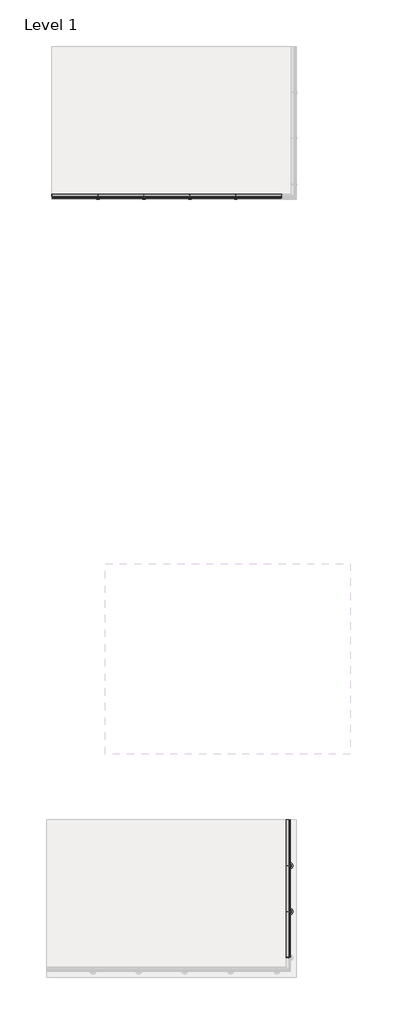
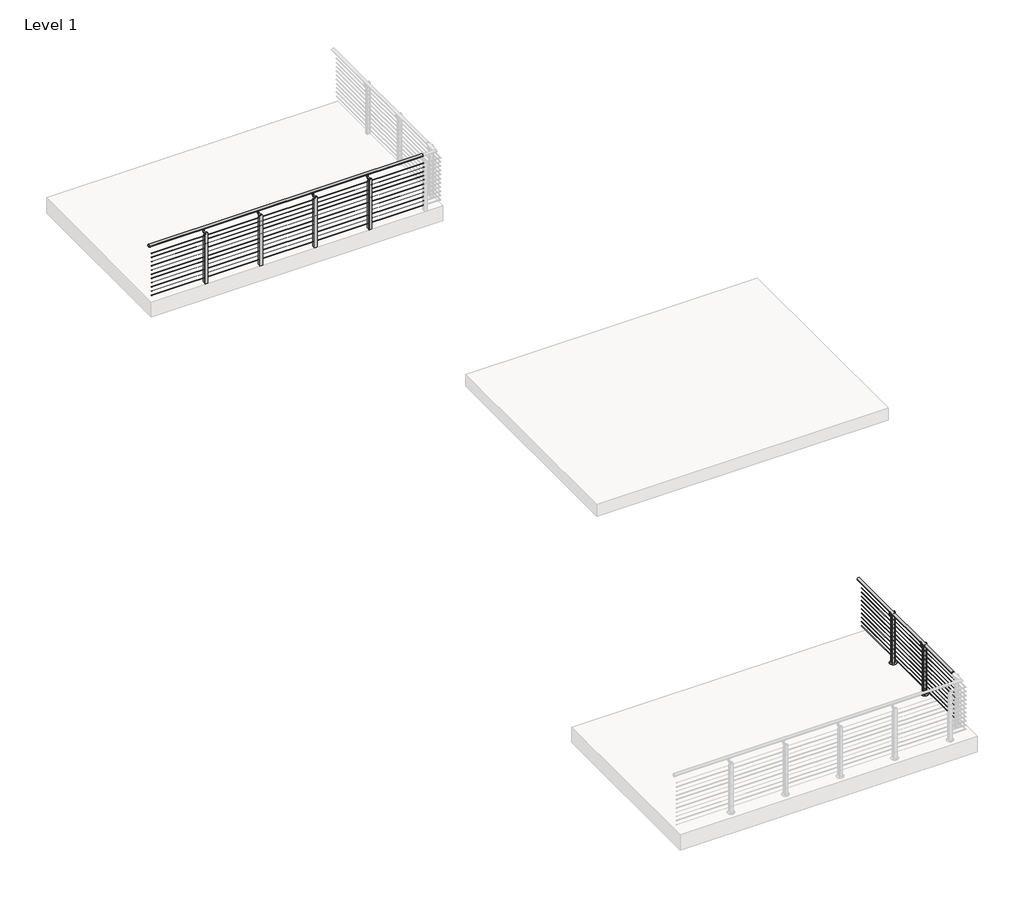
# One storey, part 7 of 9: 2 railings.
"""IFC4 building model written with IfcOpenShell, lengths in millimetres."""

from ifc_helpers import new_model, si_unit, point, frame, frame_2d, origin, origin_with_axes, place, context, project, spatial, polyline, circle_curve, trimmed, segment, composite_curve, outline, extrude, element, save
from ifc_brep_helpers import plane_surface, cylinder_surface, advanced_brep

model = new_model("IFC4")

# Units and contexts
model_context = context("Model", 3, world=origin())
ifc_project = project(units=[si_unit("LENGTHUNIT", "METRE", prefix="MILLI")], contexts=[model_context])

# Site, building, storey
site = spatial("IfcSite", under=ifc_project)
building = spatial("IfcBuilding", under=site)
storey = spatial("IfcBuildingStorey", under=building, Name="Level 1", Elevation=0.0)

# Railings
placement = place(None, origin())
element("IfcRailing", 1, ObjectType="VIVA-TEE-Cable-Core Mount-Straight", at=placement, inside=storey, context=model_context, shape_type="SolidModel", body=[
    advanced_brep(
    [(-4967.4394753, -22919.8334719, 1054.1), (-5018.2394753, -22919.8334719, 1054.1), (-4967.4394753, -22909.4018473, 1054.1), (-5018.2394753, -22909.4018473, 1054.1), (-4967.4394753, -19861.4018473, 1054.1), (-5018.2394753, -19861.4018473, 1054.1)],
    [
        (0, 1, circle_curve(frame((-4992.8394753, -22919.8334719, 1054.1), z_axis=(0.0, -1.0, 0.0), x_axis=(-1.0, 0.0, 0.0)), 25.4)),
        (1, 0, circle_curve(frame((-4992.8394753, -22919.8334719, 1054.1), z_axis=(0.0, -1.0, 0.0), x_axis=(-1.0, 0.0, 0.0)), 25.4)),
        (0, 2),
        (2, 3, circle_curve(frame((-4992.8394753, -22909.4018473, 1054.1), z_axis=(0.0, -1.0, 0.0), x_axis=(-1.0, 0.0, 0.0)), 25.4)),
        (3, 1),
        (3, 2, circle_curve(frame((-4992.8394753, -22909.4018473, 1054.1), z_axis=(0.0, -1.0, 0.0), x_axis=(-1.0, 0.0, 0.0)), 25.4)),
        (4, 5, circle_curve(frame((-4992.8394753, -19861.4018473, 1054.1), z_axis=(0.0, 1.0, 0.0), x_axis=(-1.0, 0.0, 0.0)), 25.4)),
        (5, 4, circle_curve(frame((-4992.8394753, -19861.4018473, 1054.1), z_axis=(0.0, 1.0, 0.0), x_axis=(-1.0, 0.0, 0.0)), 25.4)),
        (2, 4),
        (5, 3),
    ],
    [
        plane_surface(frame((-4992.8394753, -22919.8334719, 1079.5), z_axis=(0.0, -1.0, 0.0), x_axis=(0.0, 0.0, 1.0))),
        cylinder_surface(frame((-4992.8394753, -22919.8334719, 1054.1), z_axis=(0.0, -1.0, 0.0), x_axis=(-1.0, 0.0, 0.0)), 25.4),
        plane_surface(frame((-4992.8394753, -19861.4018473, 1079.5), z_axis=(0.0, 1.0, 0.0), x_axis=(0.0, 0.0, 1.0))),
        cylinder_surface(frame((-4992.8394753, -22909.4018473, 1054.1), z_axis=(0.0, -1.0, 0.0), x_axis=(-1.0, 0.0, 0.0)), 25.4),
    ],
    [
        (0, [[1, 2]]),
        (1, [[-1, 3, 4, 5]]),
        (1, [[-2, -5, 6, -3]]),
        (2, [[7, 8]]),
        (3, [[-4, 9, -8, 10]]),
        (3, [[-6, -10, -7, -9]]),
    ],
),
    extrude(outline(composite_curve([segment(trimmed(circle_curve(frame_2d((937.4124, -4932.5144753)), 2.3876), [point((937.4124, -4934.9020753))], [point((937.4124, -4930.1268753))], False, "CARTESIAN"), True, "CONTINUOUS"), segment(trimmed(circle_curve(frame_2d((937.4124, -4932.5144753)), 2.3876), [point((937.4124, -4930.1268753))], [point((937.4124, -4934.9020753))], False, "CARTESIAN"), True, "CONTINUOUS")], self_intersect=False)), frame((0.0, -22909.4018473, 0.0), z_axis=(0.0, 1.0, 0.0), x_axis=(0.0, 0.0, 1.0)), (0.0, 0.0, 1.0), 3048.0),
    extrude(outline(composite_curve([segment(trimmed(circle_curve(frame_2d((854.8624, -4932.5144753)), 2.3876), [point((854.8624, -4934.9020753))], [point((854.8624, -4930.1268753))], False, "CARTESIAN"), True, "CONTINUOUS"), segment(trimmed(circle_curve(frame_2d((854.8624, -4932.5144753)), 2.3876), [point((854.8624, -4930.1268753))], [point((854.8624, -4934.9020753))], False, "CARTESIAN"), True, "CONTINUOUS")], self_intersect=False)), frame((0.0, -22909.4018473, 0.0), z_axis=(0.0, 1.0, 0.0), x_axis=(0.0, 0.0, 1.0)), (0.0, 0.0, 1.0), 3048.0),
    extrude(outline(composite_curve([segment(trimmed(circle_curve(frame_2d((772.3124, -4932.5144753)), 2.3876), [point((772.3124, -4934.9020753))], [point((772.3124, -4930.1268753))], False, "CARTESIAN"), True, "CONTINUOUS"), segment(trimmed(circle_curve(frame_2d((772.3124, -4932.5144753)), 2.3876), [point((772.3124, -4930.1268753))], [point((772.3124, -4934.9020753))], False, "CARTESIAN"), True, "CONTINUOUS")], self_intersect=False)), frame((0.0, -22909.4018473, 0.0), z_axis=(0.0, 1.0, 0.0), x_axis=(0.0, 0.0, 1.0)), (0.0, 0.0, 1.0), 3048.0),
    extrude(outline(composite_curve([segment(trimmed(circle_curve(frame_2d((689.7624, -4932.5144753)), 2.3876), [point((689.7624, -4934.9020753))], [point((689.7624, -4930.1268753))], False, "CARTESIAN"), True, "CONTINUOUS"), segment(trimmed(circle_curve(frame_2d((689.7624, -4932.5144753)), 2.3876), [point((689.7624, -4930.1268753))], [point((689.7624, -4934.9020753))], False, "CARTESIAN"), True, "CONTINUOUS")], self_intersect=False)), frame((0.0, -22909.4018473, 0.0), z_axis=(0.0, 1.0, 0.0), x_axis=(0.0, 0.0, 1.0)), (0.0, 0.0, 1.0), 3048.0),
    extrude(outline(composite_curve([segment(trimmed(circle_curve(frame_2d((607.2124, -4932.5144753)), 2.3876), [point((607.2124, -4934.9020753))], [point((607.2124, -4930.1268753))], False, "CARTESIAN"), True, "CONTINUOUS"), segment(trimmed(circle_curve(frame_2d((607.2124, -4932.5144753)), 2.3876), [point((607.2124, -4930.1268753))], [point((607.2124, -4934.9020753))], False, "CARTESIAN"), True, "CONTINUOUS")], self_intersect=False)), frame((0.0, -22909.4018473, 0.0), z_axis=(0.0, 1.0, 0.0), x_axis=(0.0, 0.0, 1.0)), (0.0, 0.0, 1.0), 3048.0),
    extrude(outline(composite_curve([segment(trimmed(circle_curve(frame_2d((524.6624, -4932.5144753)), 2.3876), [point((524.6624, -4934.9020753))], [point((524.6624, -4930.1268753))], False, "CARTESIAN"), True, "CONTINUOUS"), segment(trimmed(circle_curve(frame_2d((524.6624, -4932.5144753)), 2.3876), [point((524.6624, -4930.1268753))], [point((524.6624, -4934.9020753))], False, "CARTESIAN"), True, "CONTINUOUS")], self_intersect=False)), frame((0.0, -22909.4018473, 0.0), z_axis=(0.0, 1.0, 0.0), x_axis=(0.0, 0.0, 1.0)), (0.0, 0.0, 1.0), 3048.0),
    extrude(outline(composite_curve([segment(trimmed(circle_curve(frame_2d((442.1124, -4932.5144753)), 2.3876), [point((442.1124, -4934.9020753))], [point((442.1124, -4930.1268753))], False, "CARTESIAN"), True, "CONTINUOUS"), segment(trimmed(circle_curve(frame_2d((442.1124, -4932.5144753)), 2.3876), [point((442.1124, -4930.1268753))], [point((442.1124, -4934.9020753))], False, "CARTESIAN"), True, "CONTINUOUS")], self_intersect=False)), frame((0.0, -22909.4018473, 0.0), z_axis=(0.0, 1.0, 0.0), x_axis=(0.0, 0.0, 1.0)), (0.0, 0.0, 1.0), 3048.0),
    extrude(outline(composite_curve([segment(trimmed(circle_curve(frame_2d((359.5624, -4932.5144753)), 2.3876), [point((359.5624, -4934.9020753))], [point((359.5624, -4930.1268753))], False, "CARTESIAN"), True, "CONTINUOUS"), segment(trimmed(circle_curve(frame_2d((359.5624, -4932.5144753)), 2.3876), [point((359.5624, -4930.1268753))], [point((359.5624, -4934.9020753))], False, "CARTESIAN"), True, "CONTINUOUS")], self_intersect=False)), frame((0.0, -22909.4018473, 0.0), z_axis=(0.0, 1.0, 0.0), x_axis=(0.0, 0.0, 1.0)), (0.0, 0.0, 1.0), 3048.0),
    extrude(outline(composite_curve([segment(trimmed(circle_curve(frame_2d((277.0124, -4932.5144753)), 2.3876), [point((277.0124, -4934.9020753))], [point((277.0124, -4930.1268753))], False, "CARTESIAN"), True, "CONTINUOUS"), segment(trimmed(circle_curve(frame_2d((277.0124, -4932.5144753)), 2.3876), [point((277.0124, -4930.1268753))], [point((277.0124, -4934.9020753))], False, "CARTESIAN"), True, "CONTINUOUS")], self_intersect=False)), frame((0.0, -22909.4018473, 0.0), z_axis=(0.0, 1.0, 0.0), x_axis=(0.0, 0.0, 1.0)), (0.0, 0.0, 1.0), 3048.0),
    extrude(outline(composite_curve([segment(trimmed(circle_curve(frame_2d((194.4624, -4932.5144753)), 2.3876), [point((194.4624, -4934.9020753))], [point((194.4624, -4930.1268753))], False, "CARTESIAN"), True, "CONTINUOUS"), segment(trimmed(circle_curve(frame_2d((194.4624, -4932.5144753)), 2.3876), [point((194.4624, -4930.1268753))], [point((194.4624, -4934.9020753))], False, "CARTESIAN"), True, "CONTINUOUS")], self_intersect=False)), frame((0.0, -22909.4018473, 0.0), z_axis=(0.0, 1.0, 0.0), x_axis=(0.0, 0.0, 1.0)), (0.0, 0.0, 1.0), 3048.0),
    extrude(outline(composite_curve([segment(trimmed(circle_curve(frame_2d((111.9124, -4932.5144753)), 2.3876), [point((111.9124, -4934.9020753))], [point((111.9124, -4930.1268753))], False, "CARTESIAN"), True, "CONTINUOUS"), segment(trimmed(circle_curve(frame_2d((111.9124, -4932.5144753)), 2.3876), [point((111.9124, -4930.1268753))], [point((111.9124, -4934.9020753))], False, "CARTESIAN"), True, "CONTINUOUS")], self_intersect=False)), frame((0.0, -22909.4018473, 0.0), z_axis=(0.0, 1.0, 0.0), x_axis=(0.0, 0.0, 1.0)), (0.0, 0.0, 1.0), 3048.0),
    extrude(outline(composite_curve([segment(trimmed(circle_curve(frame_2d((0.0, 7.0)), 7.0), [point((0.0, 14.0))], [point((0.0, 0.0))], False, "CARTESIAN"), True, "CONTINUOUS"), segment(trimmed(circle_curve(frame_2d((0.0, 7.0)), 7.0), [point((0.0, 0.0))], [point((0.0, 14.0))], False, "CARTESIAN"), True, "CONTINUOUS")], self_intersect=False)), frame((-4986.1296215, -20877.3281374, 949.1832524), z_axis=(0.0, 0.004253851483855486, 0.9999909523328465), x_axis=(0.0, 0.9999909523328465, -0.004253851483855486)), (0.0, 0.0, 1.0), 75.97),
    extrude(outline(composite_curve([segment(trimmed(circle_curve(frame_2d((1047.2025651, -4993.2710255)), 19.05), [point((1033.7916463, -4979.7414373))], [point((1033.7916463, -5006.8006138))], True, "CARTESIAN"), True, "CONTINUOUS"), segment(polyline([(1033.7916463, -5006.8006138), (1032.7742593, -5007.8270034)]), True, "CONTINUOUS"), segment(trimmed(circle_curve(frame_2d((1031.7089374, -5006.7710255)), 1.5), [point((1032.7742593, -5007.8270034))], [point((1030.5780156, -5007.756427))], False, "CARTESIAN"), True, "CONTINUOUS"), segment(trimmed(circle_curve(frame_2d((1047.2025651, -4993.2710255)), 22.05), [point((1030.5780156, -5007.756427))], [point((1030.5780156, -4978.7856241))], False, "CARTESIAN"), True, "CONTINUOUS"), segment(trimmed(circle_curve(frame_2d((1031.7089374, -4979.7710255)), 1.5), [point((1030.5780156, -4978.7856241))], [point((1032.7742593, -4978.7150477))], False, "CARTESIAN"), True, "CONTINUOUS"), segment(polyline([(1032.7742593, -4978.7150477), (1033.7916463, -4979.7414373)]), True, "CONTINUOUS")], self_intersect=False)), frame((0.0, -20912.8666115, 0.0), z_axis=(0.0, 1.0, 0.0), x_axis=(0.0, 0.0, 1.0)), (0.0, 0.0, 1.0), 74.5229187),
    extrude(outline(composite_curve([segment(trimmed(circle_curve(frame_2d((-20877.1238069, 976.1259188)), 12.5), [point((-20889.6238069, 976.1259188))], [point((-20864.6238069, 976.1259188))], False, "CARTESIAN"), True, "CONTINUOUS"), segment(trimmed(circle_curve(frame_2d((-20877.1238069, 976.1259188)), 12.5), [point((-20864.6238069, 976.1259188))], [point((-20889.6238069, 976.1259188))], False, "CARTESIAN"), True, "CONTINUOUS")], self_intersect=False)), frame((-5005.7866356, 0.0, 0.0), z_axis=(1.0, 0.0, 0.0), x_axis=(0.0, 1.0, 0.0)), (0.0, 0.0, 1.0), 92.423),
    extrude(outline(composite_curve([segment(trimmed(circle_curve(frame_2d((-4932.5144753, -20877.0049723)), 63.5), [point((-4869.0144753, -20877.0049723))], [point((-4996.0144753, -20877.0049723))], False, "CARTESIAN"), True, "CONTINUOUS"), segment(trimmed(circle_curve(frame_2d((-4932.5144753, -20877.0049723)), 63.5), [point((-4996.0144753, -20877.0049723))], [point((-4869.0144753, -20877.0049723))], False, "CARTESIAN"), True, "CONTINUOUS")], self_intersect=False)), origin_with_axes(), (0.0, 0.0, 1.0), 6.35),
    extrude(outline(composite_curve([segment(trimmed(circle_curve(frame_2d((924.2425, -4939.5299268)), 24.765), [point((949.0075, -4939.5299268))], [point((924.2425, -4964.2949268))], False, "CARTESIAN"), True, "CONTINUOUS"), segment(polyline([(924.2425, -4964.2949268), (-196.85, -4964.2949268), (-196.85, -4913.4644753), (949.0075, -4913.4644753), (949.0075, -4939.5299268)]), True, "CONTINUOUS")], self_intersect=False)), frame((0.0, -20863.0014727, 0.0), z_axis=(0.0, 1.0, 0.0), x_axis=(0.0, 0.0, 1.0)), (0.0, 0.0, 1.0), 9.525),
    extrude(outline(composite_curve([segment(polyline([(-20851.6049723, -196.85), (-20902.4049723, -196.85), (-20902.4049723, 979.17)]), True, "CONTINUOUS"), segment(trimmed(circle_curve(frame_2d((-20877.0049723, 979.17)), 25.4), [point((-20902.4049723, 979.17))], [point((-20851.6049723, 979.17))], False, "CARTESIAN"), True, "CONTINUOUS"), segment(polyline([(-20851.6049723, 979.17), (-20851.6049723, -196.85)]), True, "CONTINUOUS")], self_intersect=False)), frame((-4913.4644753, 0.0, 0.0), z_axis=(1.0, 0.0, 0.0), x_axis=(0.0, 1.0, 0.0)), (0.0, 0.0, 1.0), 9.525),
    extrude(outline(composite_curve([segment(trimmed(circle_curve(frame_2d((924.2425, -4939.5299268)), 24.765), [point((949.0075, -4939.5299268))], [point((924.2425, -4964.2949268))], False, "CARTESIAN"), True, "CONTINUOUS"), segment(polyline([(924.2425, -4964.2949268), (-196.85, -4964.2949268), (-196.85, -4913.4644753), (949.0075, -4913.4644753), (949.0075, -4939.5299268)]), True, "CONTINUOUS")], self_intersect=False)), frame((0.0, -20900.5334719, 0.0), z_axis=(0.0, 1.0, 0.0), x_axis=(0.0, 0.0, 1.0)), (0.0, 0.0, 1.0), 9.525),
    extrude(outline(composite_curve([segment(trimmed(circle_curve(frame_2d((0.0, 7.0)), 7.0), [point((0.0, 14.0))], [point((0.0, 0.0))], False, "CARTESIAN"), True, "CONTINUOUS"), segment(trimmed(circle_curve(frame_2d((0.0, 7.0)), 7.0), [point((0.0, 0.0))], [point((0.0, 14.0))], False, "CARTESIAN"), True, "CONTINUOUS")], self_intersect=False)), frame((-4986.1296215, -21893.3281374, 949.1832524), z_axis=(0.0, 0.004253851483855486, 0.9999909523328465), x_axis=(0.0, 0.9999909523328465, -0.004253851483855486)), (0.0, 0.0, 1.0), 75.97),
    extrude(outline(composite_curve([segment(trimmed(circle_curve(frame_2d((1047.2025651, -4993.2710255)), 19.05), [point((1033.7916463, -4979.7414373))], [point((1033.7916463, -5006.8006138))], True, "CARTESIAN"), True, "CONTINUOUS"), segment(polyline([(1033.7916463, -5006.8006138), (1032.7742593, -5007.8270034)]), True, "CONTINUOUS"), segment(trimmed(circle_curve(frame_2d((1031.7089374, -5006.7710255)), 1.5), [point((1032.7742593, -5007.8270034))], [point((1030.5780156, -5007.756427))], False, "CARTESIAN"), True, "CONTINUOUS"), segment(trimmed(circle_curve(frame_2d((1047.2025651, -4993.2710255)), 22.05), [point((1030.5780156, -5007.756427))], [point((1030.5780156, -4978.7856241))], False, "CARTESIAN"), True, "CONTINUOUS"), segment(trimmed(circle_curve(frame_2d((1031.7089374, -4979.7710255)), 1.5), [point((1030.5780156, -4978.7856241))], [point((1032.7742593, -4978.7150477))], False, "CARTESIAN"), True, "CONTINUOUS"), segment(polyline([(1032.7742593, -4978.7150477), (1033.7916463, -4979.7414373)]), True, "CONTINUOUS")], self_intersect=False)), frame((0.0, -21928.8666115, 0.0), z_axis=(0.0, 1.0, 0.0), x_axis=(0.0, 0.0, 1.0)), (0.0, 0.0, 1.0), 74.5229187),
    extrude(outline(composite_curve([segment(trimmed(circle_curve(frame_2d((-21893.1238069, 976.1259188)), 12.5), [point((-21905.6238069, 976.1259188))], [point((-21880.6238069, 976.1259188))], False, "CARTESIAN"), True, "CONTINUOUS"), segment(trimmed(circle_curve(frame_2d((-21893.1238069, 976.1259188)), 12.5), [point((-21880.6238069, 976.1259188))], [point((-21905.6238069, 976.1259188))], False, "CARTESIAN"), True, "CONTINUOUS")], self_intersect=False)), frame((-5005.7866356, 0.0, 0.0), z_axis=(1.0, 0.0, 0.0), x_axis=(0.0, 1.0, 0.0)), (0.0, 0.0, 1.0), 92.423),
    extrude(outline(composite_curve([segment(trimmed(circle_curve(frame_2d((-4932.5144753, -21893.0049723)), 63.5), [point((-4869.0144753, -21893.0049723))], [point((-4996.0144753, -21893.0049723))], False, "CARTESIAN"), True, "CONTINUOUS"), segment(trimmed(circle_curve(frame_2d((-4932.5144753, -21893.0049723)), 63.5), [point((-4996.0144753, -21893.0049723))], [point((-4869.0144753, -21893.0049723))], False, "CARTESIAN"), True, "CONTINUOUS")], self_intersect=False)), origin_with_axes(), (0.0, 0.0, 1.0), 6.35),
    extrude(outline(composite_curve([segment(trimmed(circle_curve(frame_2d((924.2425, -4939.5299268)), 24.765), [point((949.0075, -4939.5299268))], [point((924.2425, -4964.2949268))], False, "CARTESIAN"), True, "CONTINUOUS"), segment(polyline([(924.2425, -4964.2949268), (-196.85, -4964.2949268), (-196.85, -4913.4644753), (949.0075, -4913.4644753), (949.0075, -4939.5299268)]), True, "CONTINUOUS")], self_intersect=False)), frame((0.0, -21879.0014727, 0.0), z_axis=(0.0, 1.0, 0.0), x_axis=(0.0, 0.0, 1.0)), (0.0, 0.0, 1.0), 9.525),
    extrude(outline(composite_curve([segment(polyline([(-21867.6049723, -196.85), (-21918.4049723, -196.85), (-21918.4049723, 979.17)]), True, "CONTINUOUS"), segment(trimmed(circle_curve(frame_2d((-21893.0049723, 979.17)), 25.4), [point((-21918.4049723, 979.17))], [point((-21867.6049723, 979.17))], False, "CARTESIAN"), True, "CONTINUOUS"), segment(polyline([(-21867.6049723, 979.17), (-21867.6049723, -196.85)]), True, "CONTINUOUS")], self_intersect=False)), frame((-4913.4644753, 0.0, 0.0), z_axis=(1.0, 0.0, 0.0), x_axis=(0.0, 1.0, 0.0)), (0.0, 0.0, 1.0), 9.525),
    extrude(outline(composite_curve([segment(trimmed(circle_curve(frame_2d((924.2425, -4939.5299268)), 24.765), [point((949.0075, -4939.5299268))], [point((924.2425, -4964.2949268))], False, "CARTESIAN"), True, "CONTINUOUS"), segment(polyline([(924.2425, -4964.2949268), (-196.85, -4964.2949268), (-196.85, -4913.4644753), (949.0075, -4913.4644753), (949.0075, -4939.5299268)]), True, "CONTINUOUS")], self_intersect=False)), frame((0.0, -21916.5334719, 0.0), z_axis=(0.0, 1.0, 0.0), x_axis=(0.0, 0.0, 1.0)), (0.0, 0.0, 1.0), 9.525),
])
element("IfcRailing", 2, ObjectType="VIVA-TEE-Cable-Weld Mount-Straight", at=placement, inside=storey, context=model_context, shape_type="SolidModel", body=[
    advanced_brep(
    [(-5120.7460999, -6058.6693064, 1054.1), (-5120.7460999, -6007.8693064, 1054.1), (-10200.7460999, -6007.8693064, 1054.1), (-10200.7460999, -6058.6693064, 1054.1), (-10211.1777245, -6058.6693064, 1054.1), (-10211.1777245, -6007.8693064, 1054.1)],
    [
        (0, 1, circle_curve(frame((-5120.7460999, -6033.2693064, 1054.1), z_axis=(1.0, 0.0, 0.0), x_axis=(0.0, 1.0, 0.0)), 25.4)),
        (1, 0, circle_curve(frame((-5120.7460999, -6033.2693064, 1054.1), z_axis=(1.0, 0.0, 0.0), x_axis=(0.0, 1.0, 0.0)), 25.4)),
        (2, 3, circle_curve(frame((-10200.7460999, -6033.2693064, 1054.1), z_axis=(1.0, 0.0, 0.0), x_axis=(0.0, 1.0, 0.0)), 25.4)),
        (3, 0),
        (1, 2),
        (3, 2, circle_curve(frame((-10200.7460999, -6033.2693064, 1054.1), z_axis=(1.0, 0.0, 0.0), x_axis=(0.0, 1.0, 0.0)), 25.4)),
        (4, 5, circle_curve(frame((-10211.1777245, -6033.2693064, 1054.1), z_axis=(-1.0, 0.0, 0.0), x_axis=(0.0, 1.0, 0.0)), 25.4)),
        (5, 4, circle_curve(frame((-10211.1777245, -6033.2693064, 1054.1), z_axis=(-1.0, 0.0, 0.0), x_axis=(0.0, 1.0, 0.0)), 25.4)),
        (4, 3),
        (2, 5),
    ],
    [
        plane_surface(frame((-5120.7460999, -6033.2693064, 1079.5), z_axis=(1.0, 0.0, 0.0), x_axis=(0.0, 1.0, 0.0))),
        cylinder_surface(frame((-10200.7460999, -6033.2693064, 1054.1), z_axis=(-1.0, 0.0, 0.0), x_axis=(0.0, 1.0, 0.0)), 25.4),
        plane_surface(frame((-10211.1777245, -6033.2693064, 1079.5), z_axis=(-1.0, 0.0, 0.0), x_axis=(0.0, 1.0, 0.0))),
        cylinder_surface(frame((-10211.1777245, -6033.2693064, 1054.1), z_axis=(-1.0, 0.0, 0.0), x_axis=(0.0, 1.0, 0.0)), 25.4),
    ],
    [
        (0, [[1, 2]]),
        (1, [[3, 4, -2, 5]]),
        (1, [[6, -5, -1, -4]]),
        (2, [[7, 8]]),
        (3, [[-7, 9, -3, 10]]),
        (3, [[-8, -10, -6, -9]]),
    ],
),
    extrude(outline(composite_curve([segment(trimmed(circle_curve(frame_2d((-6093.5943064, 937.4124)), 2.3876), [point((-6091.2067064, 937.4124))], [point((-6095.9819064, 937.4124))], False, "CARTESIAN"), True, "CONTINUOUS"), segment(trimmed(circle_curve(frame_2d((-6093.5943064, 937.4124)), 2.3876), [point((-6095.9819064, 937.4124))], [point((-6091.2067064, 937.4124))], False, "CARTESIAN"), True, "CONTINUOUS")], self_intersect=False)), frame((-10200.7460999, 0.0, 0.0), z_axis=(1.0, 0.0, 0.0), x_axis=(0.0, 1.0, 0.0)), (0.0, 0.0, 1.0), 5080.0),
    extrude(outline(composite_curve([segment(trimmed(circle_curve(frame_2d((-6093.5943064, 854.8624)), 2.3876), [point((-6091.2067064, 854.8624))], [point((-6095.9819064, 854.8624))], False, "CARTESIAN"), True, "CONTINUOUS"), segment(trimmed(circle_curve(frame_2d((-6093.5943064, 854.8624)), 2.3876), [point((-6095.9819064, 854.8624))], [point((-6091.2067064, 854.8624))], False, "CARTESIAN"), True, "CONTINUOUS")], self_intersect=False)), frame((-10200.7460999, 0.0, 0.0), z_axis=(1.0, 0.0, 0.0), x_axis=(0.0, 1.0, 0.0)), (0.0, 0.0, 1.0), 5080.0),
    extrude(outline(composite_curve([segment(trimmed(circle_curve(frame_2d((-6093.5943064, 772.3124)), 2.3876), [point((-6091.2067064, 772.3124))], [point((-6095.9819064, 772.3124))], False, "CARTESIAN"), True, "CONTINUOUS"), segment(trimmed(circle_curve(frame_2d((-6093.5943064, 772.3124)), 2.3876), [point((-6095.9819064, 772.3124))], [point((-6091.2067064, 772.3124))], False, "CARTESIAN"), True, "CONTINUOUS")], self_intersect=False)), frame((-10200.7460999, 0.0, 0.0), z_axis=(1.0, 0.0, 0.0), x_axis=(0.0, 1.0, 0.0)), (0.0, 0.0, 1.0), 5080.0),
    extrude(outline(composite_curve([segment(trimmed(circle_curve(frame_2d((-6093.5943064, 689.7624)), 2.3876), [point((-6091.2067064, 689.7624))], [point((-6095.9819064, 689.7624))], False, "CARTESIAN"), True, "CONTINUOUS"), segment(trimmed(circle_curve(frame_2d((-6093.5943064, 689.7624)), 2.3876), [point((-6095.9819064, 689.7624))], [point((-6091.2067064, 689.7624))], False, "CARTESIAN"), True, "CONTINUOUS")], self_intersect=False)), frame((-10200.7460999, 0.0, 0.0), z_axis=(1.0, 0.0, 0.0), x_axis=(0.0, 1.0, 0.0)), (0.0, 0.0, 1.0), 5080.0),
    extrude(outline(composite_curve([segment(trimmed(circle_curve(frame_2d((-6093.5943064, 607.2124)), 2.3876), [point((-6091.2067064, 607.2124))], [point((-6095.9819064, 607.2124))], False, "CARTESIAN"), True, "CONTINUOUS"), segment(trimmed(circle_curve(frame_2d((-6093.5943064, 607.2124)), 2.3876), [point((-6095.9819064, 607.2124))], [point((-6091.2067064, 607.2124))], False, "CARTESIAN"), True, "CONTINUOUS")], self_intersect=False)), frame((-10200.7460999, 0.0, 0.0), z_axis=(1.0, 0.0, 0.0), x_axis=(0.0, 1.0, 0.0)), (0.0, 0.0, 1.0), 5080.0),
    extrude(outline(composite_curve([segment(trimmed(circle_curve(frame_2d((-6093.5943064, 524.6624)), 2.3876), [point((-6091.2067064, 524.6624))], [point((-6095.9819064, 524.6624))], False, "CARTESIAN"), True, "CONTINUOUS"), segment(trimmed(circle_curve(frame_2d((-6093.5943064, 524.6624)), 2.3876), [point((-6095.9819064, 524.6624))], [point((-6091.2067064, 524.6624))], False, "CARTESIAN"), True, "CONTINUOUS")], self_intersect=False)), frame((-10200.7460999, 0.0, 0.0), z_axis=(1.0, 0.0, 0.0), x_axis=(0.0, 1.0, 0.0)), (0.0, 0.0, 1.0), 5080.0),
    extrude(outline(composite_curve([segment(trimmed(circle_curve(frame_2d((-6093.5943064, 442.1124)), 2.3876), [point((-6091.2067064, 442.1124))], [point((-6095.9819064, 442.1124))], False, "CARTESIAN"), True, "CONTINUOUS"), segment(trimmed(circle_curve(frame_2d((-6093.5943064, 442.1124)), 2.3876), [point((-6095.9819064, 442.1124))], [point((-6091.2067064, 442.1124))], False, "CARTESIAN"), True, "CONTINUOUS")], self_intersect=False)), frame((-10200.7460999, 0.0, 0.0), z_axis=(1.0, 0.0, 0.0), x_axis=(0.0, 1.0, 0.0)), (0.0, 0.0, 1.0), 5080.0),
    extrude(outline(composite_curve([segment(trimmed(circle_curve(frame_2d((-6093.5943064, 359.5624)), 2.3876), [point((-6091.2067064, 359.5624))], [point((-6095.9819064, 359.5624))], False, "CARTESIAN"), True, "CONTINUOUS"), segment(trimmed(circle_curve(frame_2d((-6093.5943064, 359.5624)), 2.3876), [point((-6095.9819064, 359.5624))], [point((-6091.2067064, 359.5624))], False, "CARTESIAN"), True, "CONTINUOUS")], self_intersect=False)), frame((-10200.7460999, 0.0, 0.0), z_axis=(1.0, 0.0, 0.0), x_axis=(0.0, 1.0, 0.0)), (0.0, 0.0, 1.0), 5080.0),
    extrude(outline(composite_curve([segment(trimmed(circle_curve(frame_2d((-6093.5943064, 277.0124)), 2.3876), [point((-6091.2067064, 277.0124))], [point((-6095.9819064, 277.0124))], False, "CARTESIAN"), True, "CONTINUOUS"), segment(trimmed(circle_curve(frame_2d((-6093.5943064, 277.0124)), 2.3876), [point((-6095.9819064, 277.0124))], [point((-6091.2067064, 277.0124))], False, "CARTESIAN"), True, "CONTINUOUS")], self_intersect=False)), frame((-10200.7460999, 0.0, 0.0), z_axis=(1.0, 0.0, 0.0), x_axis=(0.0, 1.0, 0.0)), (0.0, 0.0, 1.0), 5080.0),
    extrude(outline(composite_curve([segment(trimmed(circle_curve(frame_2d((-6093.5943064, 194.4624)), 2.3876), [point((-6091.2067064, 194.4624))], [point((-6095.9819064, 194.4624))], False, "CARTESIAN"), True, "CONTINUOUS"), segment(trimmed(circle_curve(frame_2d((-6093.5943064, 194.4624)), 2.3876), [point((-6095.9819064, 194.4624))], [point((-6091.2067064, 194.4624))], False, "CARTESIAN"), True, "CONTINUOUS")], self_intersect=False)), frame((-10200.7460999, 0.0, 0.0), z_axis=(1.0, 0.0, 0.0), x_axis=(0.0, 1.0, 0.0)), (0.0, 0.0, 1.0), 5080.0),
    extrude(outline(composite_curve([segment(trimmed(circle_curve(frame_2d((-6093.5943064, 111.9124)), 2.3876), [point((-6091.2067064, 111.9124))], [point((-6095.9819064, 111.9124))], False, "CARTESIAN"), True, "CONTINUOUS"), segment(trimmed(circle_curve(frame_2d((-6093.5943064, 111.9124)), 2.3876), [point((-6095.9819064, 111.9124))], [point((-6091.2067064, 111.9124))], False, "CARTESIAN"), True, "CONTINUOUS")], self_intersect=False)), frame((-10200.7460999, 0.0, 0.0), z_axis=(1.0, 0.0, 0.0), x_axis=(0.0, 1.0, 0.0)), (0.0, 0.0, 1.0), 5080.0),
    extrude(outline(composite_curve([segment(trimmed(circle_curve(frame_2d((0.0, 7.0)), 7.0), [point((0.0, 14.0))], [point((0.0, 0.0))], False, "CARTESIAN"), True, "CONTINUOUS"), segment(trimmed(circle_curve(frame_2d((0.0, 7.0)), 7.0), [point((0.0, 0.0))], [point((0.0, 14.0))], False, "CARTESIAN"), True, "CONTINUOUS")], self_intersect=False)), frame((-6136.67239, -6039.9791602, 949.1832524), z_axis=(0.004253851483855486, 0.0, 0.9999909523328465), x_axis=(0.9999909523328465, 0.0, -0.004253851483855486)), (0.0, 0.0, 1.0), 75.97),
    extrude(outline(composite_curve([segment(trimmed(circle_curve(frame_2d((-6032.8377562, 1047.2025651)), 19.05), [point((-6046.3673444, 1033.7916463))], [point((-6019.3081679, 1033.7916463))], True, "CARTESIAN"), True, "CONTINUOUS"), segment(polyline([(-6019.3081679, 1033.7916463), (-6018.2817783, 1032.7742593)]), True, "CONTINUOUS"), segment(trimmed(circle_curve(frame_2d((-6019.3377562, 1031.7089374)), 1.5), [point((-6018.2817783, 1032.7742593))], [point((-6018.3523547, 1030.5780156))], False, "CARTESIAN"), True, "CONTINUOUS"), segment(trimmed(circle_curve(frame_2d((-6032.8377562, 1047.2025651)), 22.05), [point((-6018.3523547, 1030.5780156))], [point((-6047.3231576, 1030.5780156))], False, "CARTESIAN"), True, "CONTINUOUS"), segment(trimmed(circle_curve(frame_2d((-6046.3377562, 1031.7089374)), 1.5), [point((-6047.3231576, 1030.5780156))], [point((-6047.393734, 1032.7742593))], False, "CARTESIAN"), True, "CONTINUOUS"), segment(polyline([(-6047.393734, 1032.7742593), (-6046.3673444, 1033.7916463)]), True, "CONTINUOUS")], self_intersect=False)), frame((-6172.2108641, 0.0, 0.0), z_axis=(1.0, 0.0, 0.0), x_axis=(0.0, 1.0, 0.0)), (0.0, 0.0, 1.0), 74.5229187),
    extrude(outline(composite_curve([segment(trimmed(circle_curve(frame_2d((976.1259188, -6136.4680595)), 12.5), [point((976.1259188, -6148.9680595))], [point((976.1259188, -6123.9680595))], False, "CARTESIAN"), True, "CONTINUOUS"), segment(trimmed(circle_curve(frame_2d((976.1259188, -6136.4680595)), 12.5), [point((976.1259188, -6123.9680595))], [point((976.1259188, -6148.9680595))], False, "CARTESIAN"), True, "CONTINUOUS")], self_intersect=False)), frame((0.0, -6112.7451461, 0.0), z_axis=(0.0, 1.0, 0.0), x_axis=(0.0, 0.0, 1.0)), (0.0, 0.0, 1.0), 92.423),
    extrude(outline(composite_curve([segment(trimmed(circle_curve(frame_2d((-6086.5788549, 924.2425)), 24.765), [point((-6086.5788549, 949.0075))], [point((-6061.8138549, 924.2425))], False, "CARTESIAN"), True, "CONTINUOUS"), segment(polyline([(-6061.8138549, 924.2425), (-6061.8138549, 0.0), (-6112.6443064, 0.0), (-6112.6443064, 949.0075), (-6086.5788549, 949.0075)]), True, "CONTINUOUS")], self_intersect=False)), frame((-6122.3457253, 0.0, 0.0), z_axis=(1.0, 0.0, 0.0), x_axis=(0.0, 1.0, 0.0)), (0.0, 0.0, 1.0), 9.525),
    extrude(outline(composite_curve([segment(polyline([(0.0, -6110.9492249), (979.17, -6110.9492249)]), True, "CONTINUOUS"), segment(trimmed(circle_curve(frame_2d((979.17, -6136.3492249)), 25.4), [point((979.17, -6110.9492249))], [point((979.17, -6161.7492249))], False, "CARTESIAN"), True, "CONTINUOUS"), segment(polyline([(979.17, -6161.7492249), (0.0, -6161.7492249), (0.0, -6110.9492249)]), True, "CONTINUOUS")], self_intersect=False)), frame((0.0, -6122.1693064, 0.0), z_axis=(0.0, 1.0, 0.0), x_axis=(0.0, 0.0, 1.0)), (0.0, 0.0, 1.0), 9.525),
    extrude(outline(composite_curve([segment(trimmed(circle_curve(frame_2d((-6086.5788549, 924.2425)), 24.765), [point((-6086.5788549, 949.0075))], [point((-6061.8138549, 924.2425))], False, "CARTESIAN"), True, "CONTINUOUS"), segment(polyline([(-6061.8138549, 924.2425), (-6061.8138549, 0.0), (-6112.6443064, 0.0), (-6112.6443064, 949.0075), (-6086.5788549, 949.0075)]), True, "CONTINUOUS")], self_intersect=False)), frame((-6159.8777245, 0.0, 0.0), z_axis=(1.0, 0.0, 0.0), x_axis=(0.0, 1.0, 0.0)), (0.0, 0.0, 1.0), 9.525),
    extrude(outline(composite_curve([segment(trimmed(circle_curve(frame_2d((0.0, 7.0)), 7.0), [point((0.0, 14.0))], [point((0.0, 0.0))], False, "CARTESIAN"), True, "CONTINUOUS"), segment(trimmed(circle_curve(frame_2d((0.0, 7.0)), 7.0), [point((0.0, 0.0))], [point((0.0, 14.0))], False, "CARTESIAN"), True, "CONTINUOUS")], self_intersect=False)), frame((-7152.67239, -6039.9791602, 949.1832524), z_axis=(0.004253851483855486, 0.0, 0.9999909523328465), x_axis=(0.9999909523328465, 0.0, -0.004253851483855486)), (0.0, 0.0, 1.0), 75.97),
    extrude(outline(composite_curve([segment(trimmed(circle_curve(frame_2d((-6032.8377562, 1047.2025651)), 19.05), [point((-6046.3673444, 1033.7916463))], [point((-6019.3081679, 1033.7916463))], True, "CARTESIAN"), True, "CONTINUOUS"), segment(polyline([(-6019.3081679, 1033.7916463), (-6018.2817783, 1032.7742593)]), True, "CONTINUOUS"), segment(trimmed(circle_curve(frame_2d((-6019.3377562, 1031.7089374)), 1.5), [point((-6018.2817783, 1032.7742593))], [point((-6018.3523547, 1030.5780156))], False, "CARTESIAN"), True, "CONTINUOUS"), segment(trimmed(circle_curve(frame_2d((-6032.8377562, 1047.2025651)), 22.05), [point((-6018.3523547, 1030.5780156))], [point((-6047.3231576, 1030.5780156))], False, "CARTESIAN"), True, "CONTINUOUS"), segment(trimmed(circle_curve(frame_2d((-6046.3377562, 1031.7089374)), 1.5), [point((-6047.3231576, 1030.5780156))], [point((-6047.393734, 1032.7742593))], False, "CARTESIAN"), True, "CONTINUOUS"), segment(polyline([(-6047.393734, 1032.7742593), (-6046.3673444, 1033.7916463)]), True, "CONTINUOUS")], self_intersect=False)), frame((-7188.2108641, 0.0, 0.0), z_axis=(1.0, 0.0, 0.0), x_axis=(0.0, 1.0, 0.0)), (0.0, 0.0, 1.0), 74.5229187),
    extrude(outline(composite_curve([segment(trimmed(circle_curve(frame_2d((976.1259188, -7152.4680595)), 12.5), [point((976.1259188, -7164.9680595))], [point((976.1259188, -7139.9680595))], False, "CARTESIAN"), True, "CONTINUOUS"), segment(trimmed(circle_curve(frame_2d((976.1259188, -7152.4680595)), 12.5), [point((976.1259188, -7139.9680595))], [point((976.1259188, -7164.9680595))], False, "CARTESIAN"), True, "CONTINUOUS")], self_intersect=False)), frame((0.0, -6112.7451461, 0.0), z_axis=(0.0, 1.0, 0.0), x_axis=(0.0, 0.0, 1.0)), (0.0, 0.0, 1.0), 92.423),
    extrude(outline(composite_curve([segment(trimmed(circle_curve(frame_2d((-6086.5788549, 924.2425)), 24.765), [point((-6086.5788549, 949.0075))], [point((-6061.8138549, 924.2425))], False, "CARTESIAN"), True, "CONTINUOUS"), segment(polyline([(-6061.8138549, 924.2425), (-6061.8138549, 0.0), (-6112.6443064, 0.0), (-6112.6443064, 949.0075), (-6086.5788549, 949.0075)]), True, "CONTINUOUS")], self_intersect=False)), frame((-7138.3457253, 0.0, 0.0), z_axis=(1.0, 0.0, 0.0), x_axis=(0.0, 1.0, 0.0)), (0.0, 0.0, 1.0), 9.525),
    extrude(outline(composite_curve([segment(polyline([(0.0, -7126.9492249), (979.17, -7126.9492249)]), True, "CONTINUOUS"), segment(trimmed(circle_curve(frame_2d((979.17, -7152.3492249)), 25.4), [point((979.17, -7126.9492249))], [point((979.17, -7177.7492249))], False, "CARTESIAN"), True, "CONTINUOUS"), segment(polyline([(979.17, -7177.7492249), (0.0, -7177.7492249), (0.0, -7126.9492249)]), True, "CONTINUOUS")], self_intersect=False)), frame((0.0, -6122.1693064, 0.0), z_axis=(0.0, 1.0, 0.0), x_axis=(0.0, 0.0, 1.0)), (0.0, 0.0, 1.0), 9.525),
    extrude(outline(composite_curve([segment(trimmed(circle_curve(frame_2d((-6086.5788549, 924.2425)), 24.765), [point((-6086.5788549, 949.0075))], [point((-6061.8138549, 924.2425))], False, "CARTESIAN"), True, "CONTINUOUS"), segment(polyline([(-6061.8138549, 924.2425), (-6061.8138549, 0.0), (-6112.6443064, 0.0), (-6112.6443064, 949.0075), (-6086.5788549, 949.0075)]), True, "CONTINUOUS")], self_intersect=False)), frame((-7175.8777245, 0.0, 0.0), z_axis=(1.0, 0.0, 0.0), x_axis=(0.0, 1.0, 0.0)), (0.0, 0.0, 1.0), 9.525),
    extrude(outline(composite_curve([segment(trimmed(circle_curve(frame_2d((0.0, 7.0)), 7.0), [point((0.0, 14.0))], [point((0.0, 0.0))], False, "CARTESIAN"), True, "CONTINUOUS"), segment(trimmed(circle_curve(frame_2d((0.0, 7.0)), 7.0), [point((0.0, 0.0))], [point((0.0, 14.0))], False, "CARTESIAN"), True, "CONTINUOUS")], self_intersect=False)), frame((-8168.67239, -6039.9791602, 949.1832524), z_axis=(0.004253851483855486, 0.0, 0.9999909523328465), x_axis=(0.9999909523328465, 0.0, -0.004253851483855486)), (0.0, 0.0, 1.0), 75.97),
    extrude(outline(composite_curve([segment(trimmed(circle_curve(frame_2d((-6032.8377562, 1047.2025651)), 19.05), [point((-6046.3673444, 1033.7916463))], [point((-6019.3081679, 1033.7916463))], True, "CARTESIAN"), True, "CONTINUOUS"), segment(polyline([(-6019.3081679, 1033.7916463), (-6018.2817783, 1032.7742593)]), True, "CONTINUOUS"), segment(trimmed(circle_curve(frame_2d((-6019.3377562, 1031.7089374)), 1.5), [point((-6018.2817783, 1032.7742593))], [point((-6018.3523547, 1030.5780156))], False, "CARTESIAN"), True, "CONTINUOUS"), segment(trimmed(circle_curve(frame_2d((-6032.8377562, 1047.2025651)), 22.05), [point((-6018.3523547, 1030.5780156))], [point((-6047.3231576, 1030.5780156))], False, "CARTESIAN"), True, "CONTINUOUS"), segment(trimmed(circle_curve(frame_2d((-6046.3377562, 1031.7089374)), 1.5), [point((-6047.3231576, 1030.5780156))], [point((-6047.393734, 1032.7742593))], False, "CARTESIAN"), True, "CONTINUOUS"), segment(polyline([(-6047.393734, 1032.7742593), (-6046.3673444, 1033.7916463)]), True, "CONTINUOUS")], self_intersect=False)), frame((-8204.2108641, 0.0, 0.0), z_axis=(1.0, 0.0, 0.0), x_axis=(0.0, 1.0, 0.0)), (0.0, 0.0, 1.0), 74.5229187),
    extrude(outline(composite_curve([segment(trimmed(circle_curve(frame_2d((976.1259188, -8168.4680595)), 12.5), [point((976.1259188, -8180.9680595))], [point((976.1259188, -8155.9680595))], False, "CARTESIAN"), True, "CONTINUOUS"), segment(trimmed(circle_curve(frame_2d((976.1259188, -8168.4680595)), 12.5), [point((976.1259188, -8155.9680595))], [point((976.1259188, -8180.9680595))], False, "CARTESIAN"), True, "CONTINUOUS")], self_intersect=False)), frame((0.0, -6112.7451461, 0.0), z_axis=(0.0, 1.0, 0.0), x_axis=(0.0, 0.0, 1.0)), (0.0, 0.0, 1.0), 92.423),
    extrude(outline(composite_curve([segment(trimmed(circle_curve(frame_2d((-6086.5788549, 924.2425)), 24.765), [point((-6086.5788549, 949.0075))], [point((-6061.8138549, 924.2425))], False, "CARTESIAN"), True, "CONTINUOUS"), segment(polyline([(-6061.8138549, 924.2425), (-6061.8138549, 0.0), (-6112.6443064, 0.0), (-6112.6443064, 949.0075), (-6086.5788549, 949.0075)]), True, "CONTINUOUS")], self_intersect=False)), frame((-8154.3457253, 0.0, 0.0), z_axis=(1.0, 0.0, 0.0), x_axis=(0.0, 1.0, 0.0)), (0.0, 0.0, 1.0), 9.525),
    extrude(outline(composite_curve([segment(polyline([(0.0, -8142.9492249), (979.17, -8142.9492249)]), True, "CONTINUOUS"), segment(trimmed(circle_curve(frame_2d((979.17, -8168.3492249)), 25.4), [point((979.17, -8142.9492249))], [point((979.17, -8193.7492249))], False, "CARTESIAN"), True, "CONTINUOUS"), segment(polyline([(979.17, -8193.7492249), (0.0, -8193.7492249), (0.0, -8142.9492249)]), True, "CONTINUOUS")], self_intersect=False)), frame((0.0, -6122.1693064, 0.0), z_axis=(0.0, 1.0, 0.0), x_axis=(0.0, 0.0, 1.0)), (0.0, 0.0, 1.0), 9.525),
    extrude(outline(composite_curve([segment(trimmed(circle_curve(frame_2d((-6086.5788549, 924.2425)), 24.765), [point((-6086.5788549, 949.0075))], [point((-6061.8138549, 924.2425))], False, "CARTESIAN"), True, "CONTINUOUS"), segment(polyline([(-6061.8138549, 924.2425), (-6061.8138549, 0.0), (-6112.6443064, 0.0), (-6112.6443064, 949.0075), (-6086.5788549, 949.0075)]), True, "CONTINUOUS")], self_intersect=False)), frame((-8191.8777245, 0.0, 0.0), z_axis=(1.0, 0.0, 0.0), x_axis=(0.0, 1.0, 0.0)), (0.0, 0.0, 1.0), 9.525),
    extrude(outline(composite_curve([segment(trimmed(circle_curve(frame_2d((0.0, 7.0)), 7.0), [point((0.0, 14.0))], [point((0.0, 0.0))], False, "CARTESIAN"), True, "CONTINUOUS"), segment(trimmed(circle_curve(frame_2d((0.0, 7.0)), 7.0), [point((0.0, 0.0))], [point((0.0, 14.0))], False, "CARTESIAN"), True, "CONTINUOUS")], self_intersect=False)), frame((-9184.67239, -6039.9791602, 949.1832524), z_axis=(0.004253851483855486, 0.0, 0.9999909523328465), x_axis=(0.9999909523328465, 0.0, -0.004253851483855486)), (0.0, 0.0, 1.0), 75.97),
    extrude(outline(composite_curve([segment(trimmed(circle_curve(frame_2d((-6032.8377562, 1047.2025651)), 19.05), [point((-6046.3673444, 1033.7916463))], [point((-6019.3081679, 1033.7916463))], True, "CARTESIAN"), True, "CONTINUOUS"), segment(polyline([(-6019.3081679, 1033.7916463), (-6018.2817783, 1032.7742593)]), True, "CONTINUOUS"), segment(trimmed(circle_curve(frame_2d((-6019.3377562, 1031.7089374)), 1.5), [point((-6018.2817783, 1032.7742593))], [point((-6018.3523547, 1030.5780156))], False, "CARTESIAN"), True, "CONTINUOUS"), segment(trimmed(circle_curve(frame_2d((-6032.8377562, 1047.2025651)), 22.05), [point((-6018.3523547, 1030.5780156))], [point((-6047.3231576, 1030.5780156))], False, "CARTESIAN"), True, "CONTINUOUS"), segment(trimmed(circle_curve(frame_2d((-6046.3377562, 1031.7089374)), 1.5), [point((-6047.3231576, 1030.5780156))], [point((-6047.393734, 1032.7742593))], False, "CARTESIAN"), True, "CONTINUOUS"), segment(polyline([(-6047.393734, 1032.7742593), (-6046.3673444, 1033.7916463)]), True, "CONTINUOUS")], self_intersect=False)), frame((-9220.2108641, 0.0, 0.0), z_axis=(1.0, 0.0, 0.0), x_axis=(0.0, 1.0, 0.0)), (0.0, 0.0, 1.0), 74.5229187),
    extrude(outline(composite_curve([segment(trimmed(circle_curve(frame_2d((976.1259188, -9184.4680595)), 12.5), [point((976.1259188, -9196.9680595))], [point((976.1259188, -9171.9680595))], False, "CARTESIAN"), True, "CONTINUOUS"), segment(trimmed(circle_curve(frame_2d((976.1259188, -9184.4680595)), 12.5), [point((976.1259188, -9171.9680595))], [point((976.1259188, -9196.9680595))], False, "CARTESIAN"), True, "CONTINUOUS")], self_intersect=False)), frame((0.0, -6112.7451461, 0.0), z_axis=(0.0, 1.0, 0.0), x_axis=(0.0, 0.0, 1.0)), (0.0, 0.0, 1.0), 92.423),
    extrude(outline(composite_curve([segment(trimmed(circle_curve(frame_2d((-6086.5788549, 924.2425)), 24.765), [point((-6086.5788549, 949.0075))], [point((-6061.8138549, 924.2425))], False, "CARTESIAN"), True, "CONTINUOUS"), segment(polyline([(-6061.8138549, 924.2425), (-6061.8138549, 0.0), (-6112.6443064, 0.0), (-6112.6443064, 949.0075), (-6086.5788549, 949.0075)]), True, "CONTINUOUS")], self_intersect=False)), frame((-9170.3457253, 0.0, 0.0), z_axis=(1.0, 0.0, 0.0), x_axis=(0.0, 1.0, 0.0)), (0.0, 0.0, 1.0), 9.525),
    extrude(outline(composite_curve([segment(polyline([(0.0, -9158.9492249), (979.17, -9158.9492249)]), True, "CONTINUOUS"), segment(trimmed(circle_curve(frame_2d((979.17, -9184.3492249)), 25.4), [point((979.17, -9158.9492249))], [point((979.17, -9209.7492249))], False, "CARTESIAN"), True, "CONTINUOUS"), segment(polyline([(979.17, -9209.7492249), (0.0, -9209.7492249), (0.0, -9158.9492249)]), True, "CONTINUOUS")], self_intersect=False)), frame((0.0, -6122.1693064, 0.0), z_axis=(0.0, 1.0, 0.0), x_axis=(0.0, 0.0, 1.0)), (0.0, 0.0, 1.0), 9.525),
    extrude(outline(composite_curve([segment(trimmed(circle_curve(frame_2d((-6086.5788549, 924.2425)), 24.765), [point((-6086.5788549, 949.0075))], [point((-6061.8138549, 924.2425))], False, "CARTESIAN"), True, "CONTINUOUS"), segment(polyline([(-6061.8138549, 924.2425), (-6061.8138549, 0.0), (-6112.6443064, 0.0), (-6112.6443064, 949.0075), (-6086.5788549, 949.0075)]), True, "CONTINUOUS")], self_intersect=False)), frame((-9207.8777245, 0.0, 0.0), z_axis=(1.0, 0.0, 0.0), x_axis=(0.0, 1.0, 0.0)), (0.0, 0.0, 1.0), 9.525),
])

save(model, "model.ifc")
